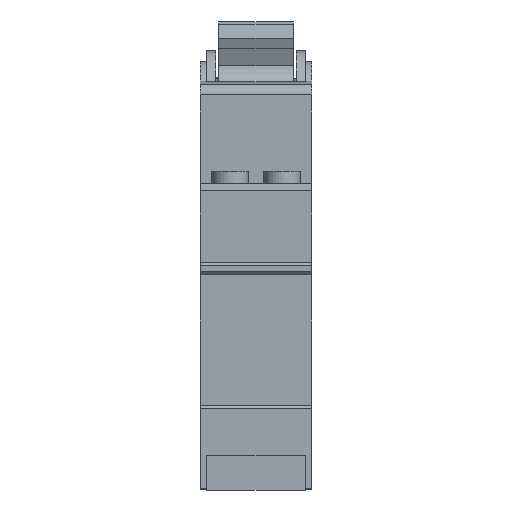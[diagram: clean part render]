
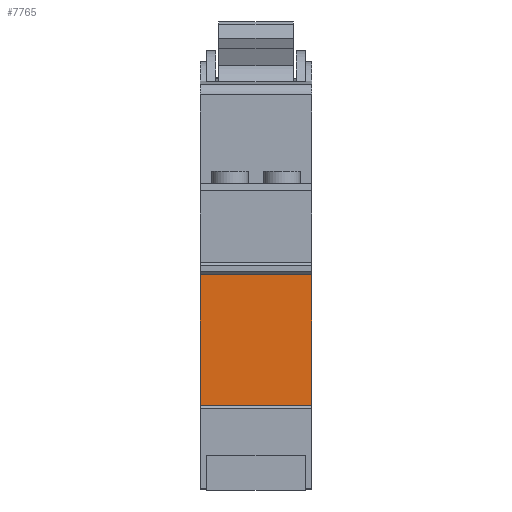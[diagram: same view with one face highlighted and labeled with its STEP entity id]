
A CAD part, front view. The second image highlights one B-rep face of the part: STEP entity #7765.
In plain terms, the highlighted planar face has unit normal (0, -1, 0).
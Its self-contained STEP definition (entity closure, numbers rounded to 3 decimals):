
#710=LINE('',#15155,#1321);
#724=LINE('',#15211,#1335);
#770=LINE('',#15310,#1381);
#771=LINE('',#15312,#1382);
#1321=VECTOR('',#9572,10.);
#1335=VECTOR('',#9620,10.);
#1381=VECTOR('',#9706,10.);
#1382=VECTOR('',#9709,10.);
#2075=FACE_OUTER_BOUND('',#2598,.T.);
#2598=EDGE_LOOP('',(#6417,#6418,#6419,#6420));
#3600=VERTEX_POINT('',#15152);
#3601=VERTEX_POINT('',#15154);
#3625=VERTEX_POINT('',#15208);
#3626=VERTEX_POINT('',#15210);
#4567=EDGE_CURVE('',#3601,#3600,#710,.T.);
#4596=EDGE_CURVE('',#3625,#3626,#724,.T.);
#4645=EDGE_CURVE('',#3601,#3625,#770,.T.);
#4646=EDGE_CURVE('',#3600,#3626,#771,.T.);
#6417=ORIENTED_EDGE('',*,*,#4567,.T.);
#6418=ORIENTED_EDGE('',*,*,#4646,.T.);
#6419=ORIENTED_EDGE('',*,*,#4596,.F.);
#6420=ORIENTED_EDGE('',*,*,#4645,.F.);
#7346=PLANE('',#8321);
#7765=ADVANCED_FACE('',(#2075),#7346,.T.);
#8321=AXIS2_PLACEMENT_3D('',#15311,#9707,#9708);
#9572=DIRECTION('',(0.,0.,-1.));
#9620=DIRECTION('',(0.,0.,-1.));
#9706=DIRECTION('',(1.,0.,0.));
#9707=DIRECTION('center_axis',(0.,-1.,0.));
#9708=DIRECTION('ref_axis',(0.,0.,-1.));
#9709=DIRECTION('',(1.,0.,0.));
#15152=CARTESIAN_POINT('',(0.,-36.323,-24.947));
#15154=CARTESIAN_POINT('',(0.,-36.323,-3.835));
#15155=CARTESIAN_POINT('',(0.,-36.323,-3.835));
#15208=CARTESIAN_POINT('',(18.,-36.323,-3.835));
#15210=CARTESIAN_POINT('',(18.,-36.323,-24.947));
#15211=CARTESIAN_POINT('',(18.,-36.323,-3.835));
#15310=CARTESIAN_POINT('',(0.,-36.323,-3.835));
#15311=CARTESIAN_POINT('Origin',(0.,-36.323,-3.835));
#15312=CARTESIAN_POINT('',(0.,-36.323,-24.947));
